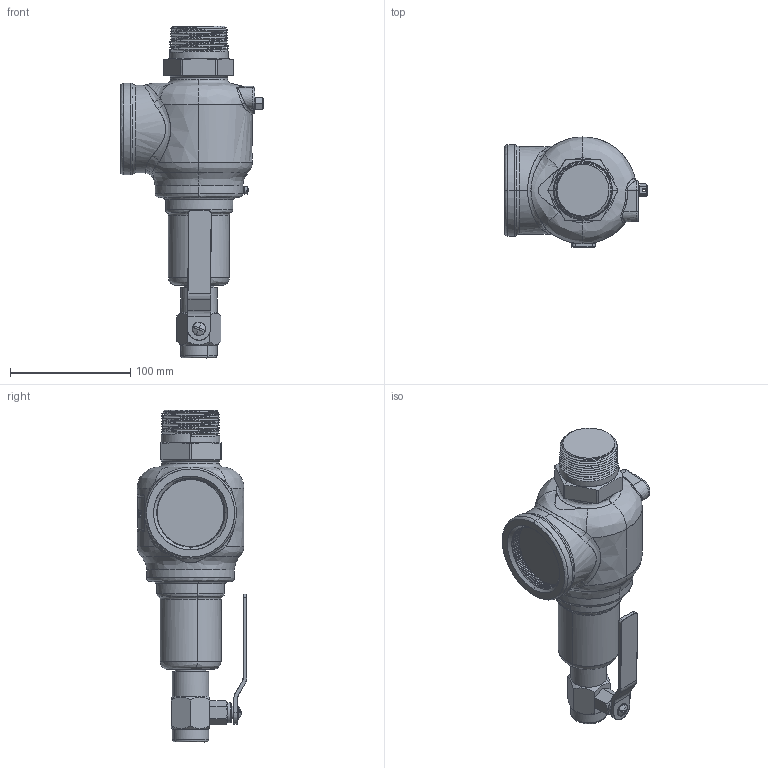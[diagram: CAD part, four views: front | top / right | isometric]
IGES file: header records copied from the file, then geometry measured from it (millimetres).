
Start section: SolidWorks IGES file using NURBS representation for surfaces
Global section: file name: C:\Design\Design\Aquatrol\Customer 3D Files\Series 740 Customer Files\G Orifice\Customer\Iges Files\Series 740 G 1500 x 2000 Packed Lever.IGS; native system: SolidWorks 2015; preprocessor: SolidWorks 2015; author: Karl; date: 150515.102655; units: inch
Bounding box: 118.63 x 91.33 x 276.29 mm (x, y, z)
Surface area: 78556.4 mm2 (no closed solid volume)
Topology: 0 solids, 0 shells, 415 faces, 7853 edges, 7853 vertices
Faces by surface type: bspline 415
